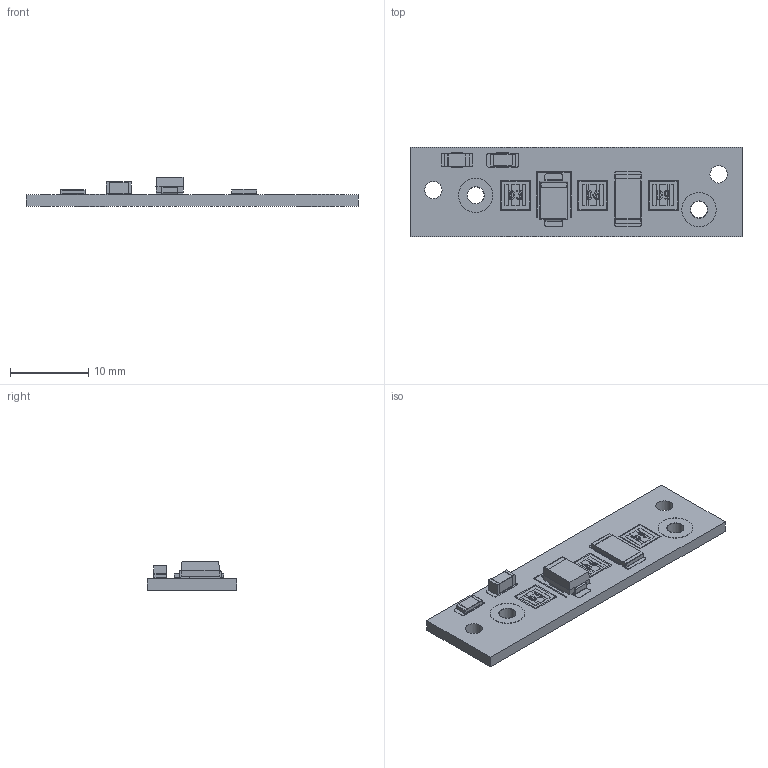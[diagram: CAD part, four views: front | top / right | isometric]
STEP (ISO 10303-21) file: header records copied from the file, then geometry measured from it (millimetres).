
FILE_DESCRIPTION(('KiCad electronic assembly'),'2;1');
FILE_NAME('rollhooplight_RSL_PCB.step','2026-04-15T22:54:30',('Pcbnew'), ('Kicad'),'Open CASCADE STEP processor 7.8','KiCad to STEP converter', 'Unknown');
FILE_SCHEMA(('AUTOMOTIVE_DESIGN { 1 0 10303 214 1 1 1 1 }'));
Length unit declared in the file: millimetre
Products named in the file (8): rollhooplight_RSL_PCB 1; D_SMB; C_1206_3216Metric; Fuse_1206_3216Metric; R_2512_6332Metric; rollhooplight_RSL_PCB_pad; rollhooplight_RSL_PCB_silkscreen; rollhooplight_RSL_PCB_PCB
Assembly tree (7 placements, depth 2):
  rollhooplight_RSL_PCB 1
    D_SMB
    C_1206_3216Metric
    Fuse_1206_3216Metric
    R_2512_6332Metric
    rollhooplight_RSL_PCB_pad
    rollhooplight_RSL_PCB_silkscreen
    rollhooplight_RSL_PCB_PCB
Bounding box: 42.5 x 11.5 x 3.79 mm (x, y, z)
Volume: 776.3 mm3; surface area: 1567.6 mm2
Topology: 28 solids, 44 shells, 305 faces, 892 edges, 662 vertices
Faces by surface type: plane 215, cylinder 80, bspline 10
Full cylindrical faces by diameter (mm): 2.15 x6, 2.2 x6, 4.4 x4
Entity records: 11469 total; most frequent: CARTESIAN_POINT 1931, DIRECTION 1698, ORIENTED_EDGE 1566, EDGE_CURVE 892, VERTEX_POINT 662, LINE 648, VECTOR 648, AXIS2_PLACEMENT_3D 525
